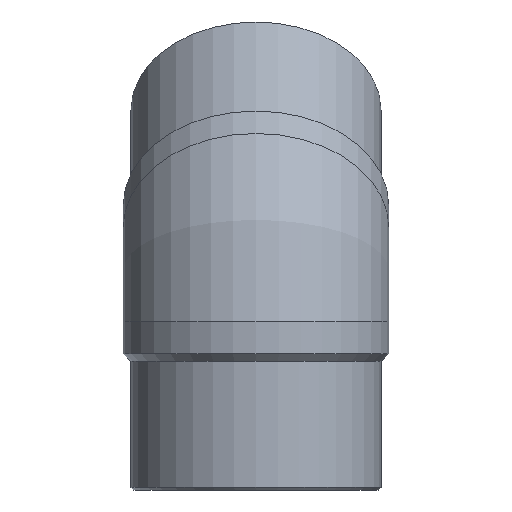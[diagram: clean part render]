
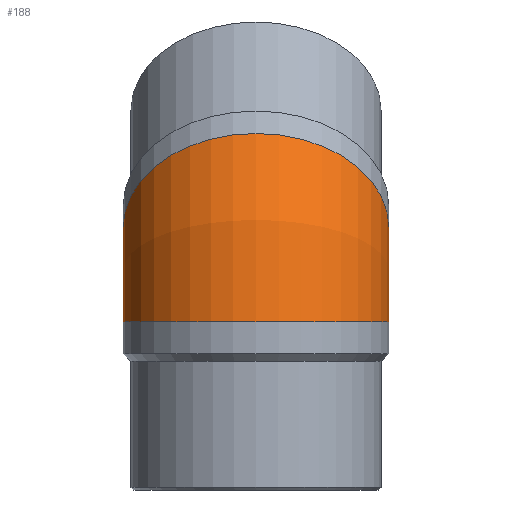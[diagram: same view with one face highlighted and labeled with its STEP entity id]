
A CAD part, left-side view. The second image highlights one B-rep face of the part: STEP entity #188.
In plain terms, the highlighted toroidal (fillet/blend) face has major radius 149.681 mm and minor radius 148.5 mm.
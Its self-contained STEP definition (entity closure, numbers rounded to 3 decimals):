
#20=TOROIDAL_SURFACE('',#225,149.681,148.5);
#53=ORIENTED_EDGE('',*,*,#86,.F.);
#54=ORIENTED_EDGE('',*,*,#87,.T.);
#86=EDGE_CURVE('',#104,#104,#118,.F.);
#87=EDGE_CURVE('',#105,#105,#119,.F.);
#104=VERTEX_POINT('',#347);
#105=VERTEX_POINT('',#350);
#118=CIRCLE('',#224,148.5);
#119=CIRCLE('',#226,148.5);
#136=EDGE_LOOP('',(#53));
#137=EDGE_LOOP('',(#54));
#163=FACE_BOUND('',#136,.T.);
#164=FACE_BOUND('',#137,.T.);
#188=ADVANCED_FACE('',(#163,#164),#20,.T.);
#224=AXIS2_PLACEMENT_3D('',#346,#270,#271);
#225=AXIS2_PLACEMENT_3D('',#348,#272,#273);
#226=AXIS2_PLACEMENT_3D('',#349,#274,#275);
#270=DIRECTION('',(-0.707,0.,-0.707));
#271=DIRECTION('',(0.707,0.,-0.707));
#272=DIRECTION('',(0.,1.,0.));
#273=DIRECTION('',(0.,0.,1.));
#274=DIRECTION('',(0.,0.,-1.));
#275=DIRECTION('',(1.,0.,0.));
#346=CARTESIAN_POINT('',(43.841,0.,43.841));
#347=CARTESIAN_POINT('',(148.846,0.,-61.165));
#348=CARTESIAN_POINT('',(149.681,0.,-62.));
#349=CARTESIAN_POINT('',(0.,0.,-62.));
#350=CARTESIAN_POINT('',(148.5,0.,-62.));
